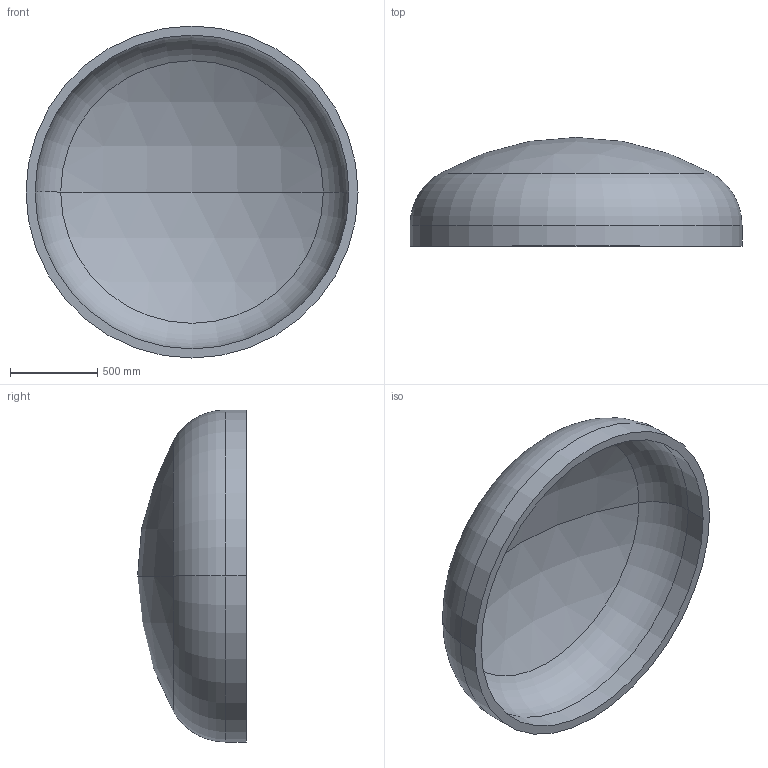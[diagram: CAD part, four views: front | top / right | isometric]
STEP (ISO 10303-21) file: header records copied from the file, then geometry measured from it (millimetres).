
FILE_DESCRIPTION (( 'STEP AP203' ), '1' );
FILE_NAME ('DIN 28013 Korbbogenform_-_Boden DIN 28013 - 1900 x 120 - I - s=52.step', '2016-07-01T13:13:27', ( '' ), ( '' ), 'SwSTEP 2.0', 'SolidWorks 2013', '' );
FILE_SCHEMA (( 'CONFIG_CONTROL_DESIGN' ));
Length unit declared in the file: millimetre
Products named in the file (1): DIN 28013 Korbbogenform_-_Boden DIN 28013 - 1900 x 120 - I - s=52
Bounding box: 1900 x 622.78 x 1900 mm (x, y, z)
Volume: 232885320.4 mm3; surface area: 9264682.7 mm2
Topology: 1 solids, 1 shells, 13 faces, 24 edges, 14 vertices
Faces by surface type: torus 4, cylinder 4, sphere 4, plane 1
Entity records: 407 total; most frequent: DIRECTION 72, CARTESIAN_POINT 52, ORIENTED_EDGE 48, AXIS2_PLACEMENT_3D 34, EDGE_CURVE 24, CIRCLE 20, VERTEX_POINT 14, EDGE_LOOP 14
